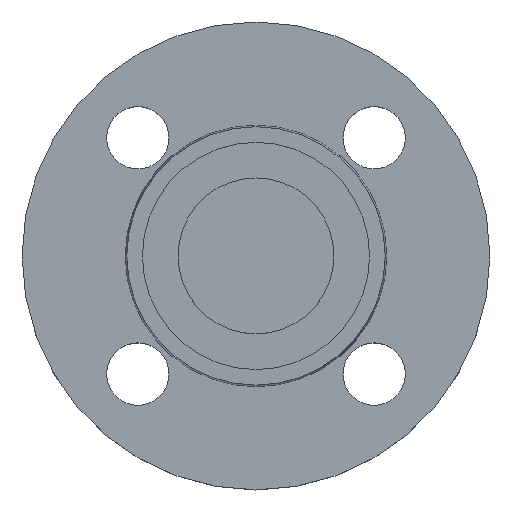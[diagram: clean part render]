
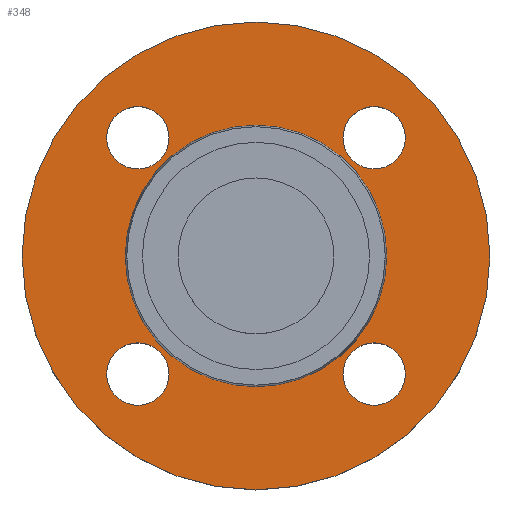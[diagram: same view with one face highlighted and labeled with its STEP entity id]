
A CAD part, top view. The second image highlights one B-rep face of the part: STEP entity #348.
In plain terms, the highlighted planar face has unit normal (0, 0, 1).
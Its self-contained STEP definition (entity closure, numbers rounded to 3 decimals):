
#1 = CARTESIAN_POINT ( 'NONE',  ( 0., 0., -2. ) ) ;
#13 = CARTESIAN_POINT ( 'NONE',  ( -33.517, 26.517, -2. ) ) ;
#14 = CARTESIAN_POINT ( 'NONE',  ( 33.517, -26.517, -2. ) ) ;
#24 = CARTESIAN_POINT ( 'NONE',  ( -19.517, 26.517, -2. ) ) ;
#26 = CARTESIAN_POINT ( 'NONE',  ( -29.353, 0., -2. ) ) ;
#27 = CARTESIAN_POINT ( 'NONE',  ( 29.353, 0., -2. ) ) ;
#31 = CARTESIAN_POINT ( 'NONE',  ( -33.517, -26.517, -2. ) ) ;
#33 = CIRCLE ( 'NONE', #488, 7. ) ;
#58 = CARTESIAN_POINT ( 'NONE',  ( 33.517, 26.517, -2. ) ) ;
#59 = DIRECTION ( 'NONE',  ( 1., 0., 0. ) ) ;
#60 = DIRECTION ( 'NONE',  ( 0., 0., -1. ) ) ;
#61 = CARTESIAN_POINT ( 'NONE',  ( 26.517, -26.517, -2. ) ) ;
#79 = DIRECTION ( 'NONE',  ( 0., 0., -1. ) ) ;
#80 = DIRECTION ( 'NONE',  ( -1., 0., 0. ) ) ;
#86 = CARTESIAN_POINT ( 'NONE',  ( 0., 0., -2. ) ) ;
#106 = EDGE_LOOP ( 'NONE', ( #640, #641 ) ) ;
#127 = CARTESIAN_POINT ( 'NONE',  ( 52.5, 0., -2. ) ) ;
#129 = DIRECTION ( 'NONE',  ( 1., 0., 0. ) ) ;
#134 = DIRECTION ( 'NONE',  ( 0., 0., -1. ) ) ;
#140 = CARTESIAN_POINT ( 'NONE',  ( -26.517, -26.517, -2. ) ) ;
#157 = CARTESIAN_POINT ( 'NONE',  ( -52.5, 0., -2. ) ) ;
#169 = AXIS2_PLACEMENT_3D ( 'NONE', #311, #312, #315 ) ;
#180 = EDGE_CURVE ( 'NONE', #617, #581, #818, .T. ) ;
#185 = DIRECTION ( 'NONE',  ( -1., 0., 0. ) ) ;
#187 = AXIS2_PLACEMENT_3D ( 'NONE', #864, #865, #867 ) ;
#188 = DIRECTION ( 'NONE',  ( 0., 0., -1. ) ) ;
#191 = EDGE_CURVE ( 'NONE', #522, #782, #33, .T. ) ;
#192 = CARTESIAN_POINT ( 'NONE',  ( 0., 0., -2. ) ) ;
#231 = CARTESIAN_POINT ( 'NONE',  ( -19.517, -26.517, -2. ) ) ;
#240 = EDGE_CURVE ( 'NONE', #781, #757, #665, .T. ) ;
#243 = CARTESIAN_POINT ( 'NONE',  ( 19.517, 26.517, -2. ) ) ;
#252 = EDGE_CURVE ( 'NONE', #757, #781, #516, .T. ) ;
#261 = CIRCLE ( 'NONE', #265, 29.353 ) ;
#265 = AXIS2_PLACEMENT_3D ( 'NONE', #1, #483, #337 ) ;
#267 = AXIS2_PLACEMENT_3D ( 'NONE', #773, #464, #398 ) ;
#270 = CIRCLE ( 'NONE', #267, 7. ) ;
#271 = EDGE_CURVE ( 'NONE', #748, #505, #565, .T. ) ;
#295 = EDGE_CURVE ( 'NONE', #713, #511, #626, .T. ) ;
#311 = CARTESIAN_POINT ( 'NONE',  ( 26.517, 26.517, -2. ) ) ;
#312 = DIRECTION ( 'NONE',  ( 0., 0., -1. ) ) ;
#315 = DIRECTION ( 'NONE',  ( 1., 0., 0. ) ) ;
#337 = DIRECTION ( 'NONE',  ( -1., 0., 0. ) ) ;
#344 = AXIS2_PLACEMENT_3D ( 'NONE', #391, #392, #394 ) ;
#348 = ADVANCED_FACE ( 'NONE', ( #766, #381, #383, #384, #386, #387 ), #390, .T. ) ;
#381 = FACE_BOUND ( 'NONE', #501, .T. ) ;
#383 = FACE_BOUND ( 'NONE', #578, .T. ) ;
#384 = FACE_BOUND ( 'NONE', #512, .T. ) ;
#386 = FACE_BOUND ( 'NONE', #106, .T. ) ;
#387 = FACE_OUTER_BOUND ( 'NONE', #768, .T. ) ;
#390 = PLANE ( 'NONE',  #344 ) ;
#391 = CARTESIAN_POINT ( 'NONE',  ( 29.353, 0., -2. ) ) ;
#392 = DIRECTION ( 'NONE',  ( 0., 0., 1. ) ) ;
#394 = DIRECTION ( 'NONE',  ( 1., 0., 0. ) ) ;
#398 = DIRECTION ( 'NONE',  ( 1., 0., 0. ) ) ;
#445 = CARTESIAN_POINT ( 'NONE',  ( 19.517, -26.517, -2. ) ) ;
#451 = AXIS2_PLACEMENT_3D ( 'NONE', #61, #60, #59 ) ;
#456 = CIRCLE ( 'NONE', #451, 7. ) ;
#464 = DIRECTION ( 'NONE',  ( 0., 0., -1. ) ) ;
#465 = AXIS2_PLACEMENT_3D ( 'NONE', #86, #79, #80 ) ;
#466 = CIRCLE ( 'NONE', #465, 52.5 ) ;
#483 = DIRECTION ( 'NONE',  ( 0., 0., -1. ) ) ;
#488 = AXIS2_PLACEMENT_3D ( 'NONE', #826, #828, #830 ) ;
#492 = CIRCLE ( 'NONE', #702, 29.353 ) ;
#494 = AXIS2_PLACEMENT_3D ( 'NONE', #140, #134, #129 ) ;
#501 = EDGE_LOOP ( 'NONE', ( #633, #634 ) ) ;
#505 = VERTEX_POINT ( 'NONE', #231 ) ;
#511 = VERTEX_POINT ( 'NONE', #243 ) ;
#512 = EDGE_LOOP ( 'NONE', ( #637, #639 ) ) ;
#516 = CIRCLE ( 'NONE', #792, 7. ) ;
#522 = VERTEX_POINT ( 'NONE', #445 ) ;
#526 = EDGE_CURVE ( 'NONE', #750, #749, #492, .T. ) ;
#565 = CIRCLE ( 'NONE', #891, 7. ) ;
#578 = EDGE_LOOP ( 'NONE', ( #635, #636 ) ) ;
#581 = VERTEX_POINT ( 'NONE', #157 ) ;
#592 = EDGE_LOOP ( 'NONE', ( #630, #632 ) ) ;
#615 = EDGE_CURVE ( 'NONE', #505, #748, #908, .T. ) ;
#617 = VERTEX_POINT ( 'NONE', #127 ) ;
#626 = CIRCLE ( 'NONE', #169, 7. ) ;
#630 = ORIENTED_EDGE ( 'NONE', *, *, #703, .T. ) ;
#632 = ORIENTED_EDGE ( 'NONE', *, *, #191, .T. ) ;
#633 = ORIENTED_EDGE ( 'NONE', *, *, #615, .T. ) ;
#634 = ORIENTED_EDGE ( 'NONE', *, *, #271, .T. ) ;
#635 = ORIENTED_EDGE ( 'NONE', *, *, #252, .T. ) ;
#636 = ORIENTED_EDGE ( 'NONE', *, *, #240, .T. ) ;
#637 = ORIENTED_EDGE ( 'NONE', *, *, #295, .T. ) ;
#639 = ORIENTED_EDGE ( 'NONE', *, *, #866, .T. ) ;
#640 = ORIENTED_EDGE ( 'NONE', *, *, #526, .T. ) ;
#641 = ORIENTED_EDGE ( 'NONE', *, *, #862, .T. ) ;
#643 = ORIENTED_EDGE ( 'NONE', *, *, #180, .F. ) ;
#644 = ORIENTED_EDGE ( 'NONE', *, *, #689, .F. ) ;
#662 = AXIS2_PLACEMENT_3D ( 'NONE', #814, #815, #816 ) ;
#665 = CIRCLE ( 'NONE', #187, 7. ) ;
#689 = EDGE_CURVE ( 'NONE', #581, #617, #466, .T. ) ;
#702 = AXIS2_PLACEMENT_3D ( 'NONE', #192, #188, #185 ) ;
#703 = EDGE_CURVE ( 'NONE', #782, #522, #456, .T. ) ;
#713 = VERTEX_POINT ( 'NONE', #58 ) ;
#748 = VERTEX_POINT ( 'NONE', #31 ) ;
#749 = VERTEX_POINT ( 'NONE', #27 ) ;
#750 = VERTEX_POINT ( 'NONE', #26 ) ;
#757 = VERTEX_POINT ( 'NONE', #24 ) ;
#766 = FACE_BOUND ( 'NONE', #592, .T. ) ;
#768 = EDGE_LOOP ( 'NONE', ( #643, #644 ) ) ;
#773 = CARTESIAN_POINT ( 'NONE',  ( 26.517, 26.517, -2. ) ) ;
#781 = VERTEX_POINT ( 'NONE', #13 ) ;
#782 = VERTEX_POINT ( 'NONE', #14 ) ;
#792 = AXIS2_PLACEMENT_3D ( 'NONE', #873, #875, #876 ) ;
#814 = CARTESIAN_POINT ( 'NONE',  ( 0., 0., -2. ) ) ;
#815 = DIRECTION ( 'NONE',  ( 0., 0., -1. ) ) ;
#816 = DIRECTION ( 'NONE',  ( -1., 0., 0. ) ) ;
#818 = CIRCLE ( 'NONE', #662, 52.5 ) ;
#826 = CARTESIAN_POINT ( 'NONE',  ( 26.517, -26.517, -2. ) ) ;
#828 = DIRECTION ( 'NONE',  ( 0., 0., -1. ) ) ;
#830 = DIRECTION ( 'NONE',  ( 1., 0., 0. ) ) ;
#862 = EDGE_CURVE ( 'NONE', #749, #750, #261, .T. ) ;
#864 = CARTESIAN_POINT ( 'NONE',  ( -26.517, 26.517, -2. ) ) ;
#865 = DIRECTION ( 'NONE',  ( 0., 0., -1. ) ) ;
#866 = EDGE_CURVE ( 'NONE', #511, #713, #270, .T. ) ;
#867 = DIRECTION ( 'NONE',  ( 1., 0., 0. ) ) ;
#873 = CARTESIAN_POINT ( 'NONE',  ( -26.517, 26.517, -2. ) ) ;
#875 = DIRECTION ( 'NONE',  ( 0., 0., -1. ) ) ;
#876 = DIRECTION ( 'NONE',  ( 1., 0., 0. ) ) ;
#886 = CARTESIAN_POINT ( 'NONE',  ( -26.517, -26.517, -2. ) ) ;
#887 = DIRECTION ( 'NONE',  ( 0., 0., -1. ) ) ;
#890 = DIRECTION ( 'NONE',  ( 1., 0., 0. ) ) ;
#891 = AXIS2_PLACEMENT_3D ( 'NONE', #886, #887, #890 ) ;
#908 = CIRCLE ( 'NONE', #494, 7. ) ;
